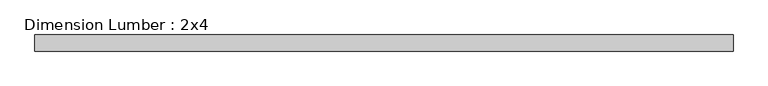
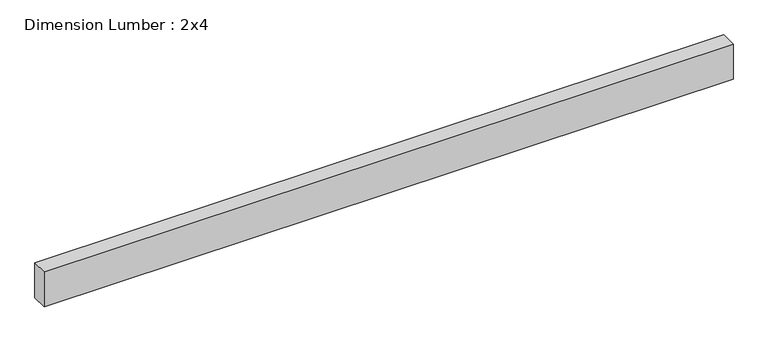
"""IFC4 building model written with IfcOpenShell, lengths in millimetres: beam geometry, Dimension Lumber : 2x4."""

import ifcopenshell
import ifcopenshell.guid

model = None  # the IFC model being written
_history = None  # IfcOwnerHistory: only IFC2X3 demands one
_inside = {}  # id of a spatial element -> (the spatial element, [elements in it])
_under = {}  # id of a project, library or spatial element -> (it, [spatial elements below it])
_declared = {}  # id of a project -> (the project, [libraries it declares])
_typed = {}  # id of a type object -> (the type object, [elements of that type])
_made_of = {}  # id of a material, layer set ... -> (it, [elements and type objects made of it])


def new_model(schema):
    """Start an empty IFC model of exactly this schema.

    Asked for "IFC4X3", IfcOpenShell would pick the latest addendum, in which some entities
    have other attributes; the version numbers below select the first issue.
    IFC2X3 requires an IfcOwnerHistory on every rooted entity: one is made here for all.
    """
    global model, _history
    if schema == "IFC4X3":
        model = ifcopenshell.file(schema_version=(4, 3, 0, 0))
    else:
        model = ifcopenshell.file(schema=schema)
    _inside.clear()
    _under.clear()
    _declared.clear()
    _typed.clear()
    _made_of.clear()
    _history = None
    if model.schema == "IFC2X3":
        org = make("IfcOrganization", Name="unknown")
        user = make(
            "IfcPersonAndOrganization",
            ThePerson=make("IfcPerson", FamilyName="unknown"),
            TheOrganization=org,
        )
        app = make(
            "IfcApplication",
            ApplicationDeveloper=org,
            Version="unknown",
            ApplicationFullName="unknown",
            ApplicationIdentifier="unknown",
        )
        _history = make(
            "IfcOwnerHistory",
            OwningUser=user,
            OwningApplication=app,
            ChangeAction="ADDED",
            CreationDate=0,
        )
    return model


def make(cls, **values):
    """One entity of the class cls with the attributes given. An attribute that is None is left unset."""
    return model.create_entity(
        cls, **{name: value for name, value in values.items() if value is not None}
    )


def rooted(cls, **values):
    """An entity with a GlobalId (a new one), such as an element, a storey or a relation."""
    return make(cls, GlobalId=ifcopenshell.guid.new(), OwnerHistory=_history, **values)


def si_unit(unit_type, name, prefix=None):
    """IfcSIUnit, for example si_unit("LENGTHUNIT", "METRE", prefix="MILLI")."""
    return make("IfcSIUnit", UnitType=unit_type, Prefix=prefix, Name=name)


def assignment(units):
    """IfcUnitAssignment: the units of a project."""
    return None if units is None else make("IfcUnitAssignment", Units=units)


def point(xyz):
    """IfcCartesianPoint."""
    return None if xyz is None else make("IfcCartesianPoint", Coordinates=xyz)


def direction(xyz):
    """IfcDirection."""
    return None if xyz is None else make("IfcDirection", DirectionRatios=xyz)


def frame(location, z_axis=None, x_axis=None):
    """IfcAxis2Placement3D, a coordinate frame: its origin and axes. An axis left out is left unset."""
    return make(
        "IfcAxis2Placement3D",
        Location=point(location),
        Axis=direction(z_axis),
        RefDirection=direction(x_axis),
    )


def origin():
    """The frame at (0, 0, 0) with its axes left unset."""
    return frame((0.0, 0.0, 0.0))


def place(relative_to, where):
    """IfcLocalPlacement: puts the frame where relative to a parent placement (None: the world)."""
    return make(
        "IfcLocalPlacement", PlacementRelTo=relative_to, RelativePlacement=where
    )


def context(
    kind, dimensions, precision=None, world=None, true_north=None, identifier=None
):
    """IfcGeometricRepresentationContext, for example the 3D "Model" context."""
    return make(
        "IfcGeometricRepresentationContext",
        ContextIdentifier=identifier,
        ContextType=kind,
        CoordinateSpaceDimension=dimensions,
        Precision=precision,
        WorldCoordinateSystem=world,
        TrueNorth=true_north,
    )


def project(units=None, contexts=None):
    """IfcProject with its units and contexts."""
    return rooted(
        "IfcProject",
        Name="project",
        RepresentationContexts=contexts,
        UnitsInContext=assignment(units),
    )


def spatial(cls, under=None, at=None, **own):
    """A site, building, storey or space (cls), placed at a placement, below another one or the project."""
    s = rooted(cls, ObjectPlacement=at, **own)
    if under is not None:
        _under.setdefault(under.id(), (under, []))[1].append(s)
    return s


def polyline(points):
    """IfcPolyline through the points."""
    return make("IfcPolyline", Points=[point(p) for p in points])


def outline(outer, holes=None, kind="AREA"):
    """IfcArbitraryClosedProfileDef: a profile drawn as a closed curve; with holes, ...WithVoids."""
    if holes is None:
        return make("IfcArbitraryClosedProfileDef", ProfileType=kind, OuterCurve=outer)
    return make(
        "IfcArbitraryProfileDefWithVoids",
        ProfileType=kind,
        OuterCurve=outer,
        InnerCurves=holes,
    )


def extrude(swept, where, along, depth):
    """IfcExtrudedAreaSolid: the profile swept, set in the frame where, extruded along a direction by depth."""
    return make(
        "IfcExtrudedAreaSolid",
        SweptArea=swept,
        Position=where,
        ExtrudedDirection=direction(along),
        Depth=depth,
    )


def shape(context_of_items, identifier, shape_type, items):
    """IfcShapeRepresentation: the items that make up one representation, for example the "Body"."""
    return make(
        "IfcShapeRepresentation",
        ContextOfItems=context_of_items,
        RepresentationIdentifier=identifier,
        RepresentationType=shape_type,
        Items=items,
    )


def source(mapping_origin, context_of_items, identifier, shape_type, items):
    """IfcRepresentationMap: a shape defined once, which mapped items show again and again."""
    return make(
        "IfcRepresentationMap",
        MappingOrigin=mapping_origin,
        MappedRepresentation=shape(context_of_items, identifier, shape_type, items),
    )


def transform(
    local_origin,
    x_axis=None,
    y_axis=None,
    z_axis=None,
    scale=None,
    scale2=None,
    scale3=None,
    uniform=True,
):
    """IfcCartesianTransformationOperator3D, or its non-uniform kind. x_axis, y_axis, z_axis: its Axis1, 2, 3."""
    if uniform:
        return make(
            "IfcCartesianTransformationOperator3D",
            Axis1=direction(x_axis),
            Axis2=direction(y_axis),
            LocalOrigin=point(local_origin),
            Scale=scale,
            Axis3=direction(z_axis),
        )
    return make(
        "IfcCartesianTransformationOperator3DnonUniform",
        Axis1=direction(x_axis),
        Axis2=direction(y_axis),
        LocalOrigin=point(local_origin),
        Scale=scale,
        Axis3=direction(z_axis),
        Scale2=scale2,
        Scale3=scale3,
    )


def mapped(mapping_source, mapping_target):
    """IfcMappedItem: shows the shape of a source again, moved by a transform."""
    return make(
        "IfcMappedItem", MappingSource=mapping_source, MappingTarget=mapping_target
    )


def made_of(thing, what):
    """Note that an element or type object is made of a material, layer set ...; save() writes the relation."""
    if what is not None:
        _made_of.setdefault(what.id(), (what, []))[1].append(thing)
    return thing


def element(
    cls,
    number,
    at=None,
    inside=None,
    cuts=None,
    type_object=None,
    material=None,
    context=None,
    identifier="Body",
    shape_type=None,
    held_by="IfcProductDefinitionShape",
    body=None,
    shapes=None,
    **own,
):
    """One element of the class cls, such as IfcWall. Its Tag is "e" and its number.

    at: its placement. inside: the storey or other place that contains it. cuts: it is an
    opening in that element (IfcRelVoidsElement). A single representation is given by context,
    identifier, shape_type and body (its items); several are given by shapes. held_by: the class
    of the entity that holds the representations. save() writes the other relations.
    """
    e = rooted(cls, Tag="e%d" % number, ObjectPlacement=at, **own)
    if body is not None:
        shapes = [shape(context, identifier, shape_type, body)]
    if shapes is not None:
        e.Representation = make(held_by, Representations=shapes)
    if inside is not None:
        _inside.setdefault(inside.id(), (inside, []))[1].append(e)
    if cuts is not None:
        rooted(
            "IfcRelVoidsElement", RelatingBuildingElement=cuts, RelatedOpeningElement=e
        )
    if type_object is not None:
        _typed.setdefault(type_object.id(), (type_object, []))[1].append(e)
    return made_of(e, material)


def aggregate(whole, parts):
    """IfcRelAggregates: a whole, such as a stair, and the parts it consists of."""
    return rooted("IfcRelAggregates", RelatingObject=whole, RelatedObjects=parts)


def save(model, path):
    """Write the relations noted so far, then the file.

    IfcRelAggregates (storeys below a building ...), IfcRelContainedInSpatialStructure (elements
    in a storey), IfcRelDefinesByType, IfcRelAssociatesMaterial and IfcRelDeclares: one each for
    every whole, place, type object, material and project.
    """
    for whole, parts in _under.values():
        aggregate(whole, parts)
    for where, things in _inside.values():
        rooted(
            "IfcRelContainedInSpatialStructure",
            RelatedElements=things,
            RelatingStructure=where,
        )
    for kind, things in _typed.values():
        rooted("IfcRelDefinesByType", RelatedObjects=things, RelatingType=kind)
    for what, things in _made_of.values():
        rooted("IfcRelAssociatesMaterial", RelatedObjects=things, RelatingMaterial=what)
    for by, libraries in _declared.values():
        rooted("IfcRelDeclares", RelatingContext=by, RelatedDefinitions=libraries)
    model.write(path)


def dimension_lumber_2x4_e5914599(model_context):
    return source(origin(), model_context, "Body", "SweptSolid", [
        extrude(outline(polyline([(826.1635133, 19.05), (826.1635133, -19.05), (-826.1635133, -19.05), (-826.1635133, 19.05), (826.1635133, 19.05)])), frame((0.0, 0.0, -44.45), z_axis=(0.0, 0.0, 1.0), x_axis=(1.0, 0.0, 0.0)), (0.0, 0.0, 1.0), 88.9),
    ])


if __name__ == "__main__":
    model = new_model("IFC4")
    model_context = context("Model", 3, world=origin())
    ifc_project = project(units=[si_unit("LENGTHUNIT", "METRE", prefix="MILLI")], contexts=[model_context])
    site = spatial("IfcSite", under=ifc_project)
    building = spatial("IfcBuilding", under=site)
    placement = place(None, origin())
    dimension_lumber_2x4_shape = dimension_lumber_2x4_e5914599(model_context)
    element("IfcBeam", 1, ObjectType="Dimension Lumber : 2x4", at=placement, inside=building, context=model_context, shape_type="MappedRepresentation", body=[
        mapped(dimension_lumber_2x4_shape, transform((0.0, 0.0, 0.0), x_axis=(1.0, 0.0, 0.0), y_axis=(0.0, 1.0, 0.0), z_axis=(0.0, 0.0, 1.0))),
    ])
    save(model, "model.ifc")
